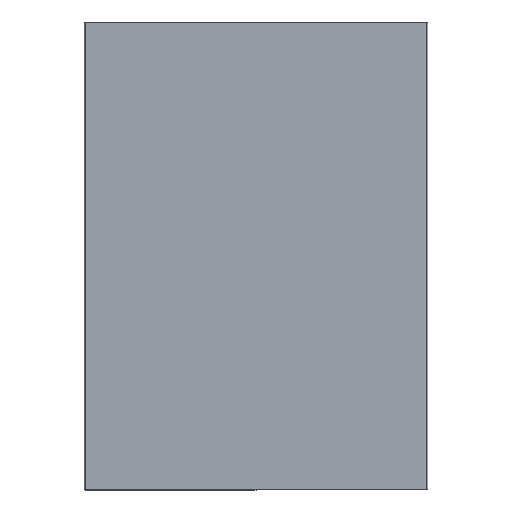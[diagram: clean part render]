
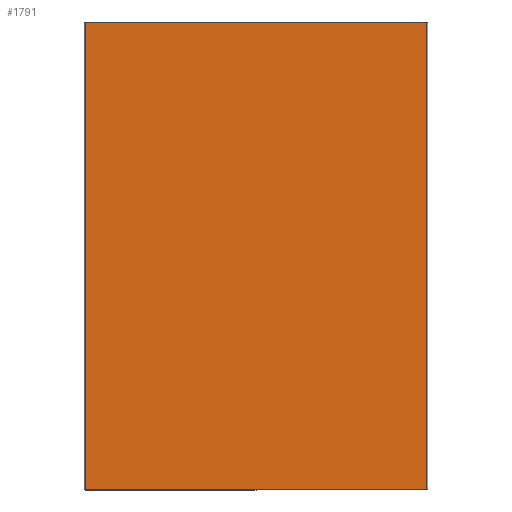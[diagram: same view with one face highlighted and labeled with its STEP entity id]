
A CAD part, top view. The second image highlights one B-rep face of the part: STEP entity #1791.
In plain terms, the highlighted planar face has unit normal (0, 0, 1).
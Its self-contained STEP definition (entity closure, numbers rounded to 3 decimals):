
#1506=CARTESIAN_POINT('',(273.0,-374.,4.0));
#1507=VERTEX_POINT('',#1506);
#1514=CARTESIAN_POINT('',(-273.,-374.0,4.0));
#1515=VERTEX_POINT('',#1514);
#1516=CARTESIAN_POINT('',(273.0,-374.,4.0));
#1517=DIRECTION('',(-1.0,0.0,0.0));
#1518=VECTOR('',#1517,546.);
#1519=LINE('',#1516,#1518);
#1520=EDGE_CURVE('',#1507,#1515,#1519,.T.);
#1547=CARTESIAN_POINT('',(274.0,-373.,4.0));
#1548=VERTEX_POINT('',#1547);
#1555=CARTESIAN_POINT('',(273.0,-373.,4.0));
#1556=DIRECTION('',(0.0,0.0,-1.0));
#1557=DIRECTION('',(0.707,-0.707,0.0));
#1558=AXIS2_PLACEMENT_3D('',#1555,#1556,#1557);
#1559=CIRCLE('',#1558,1.);
#1560=EDGE_CURVE('',#1548,#1507,#1559,.T.);
#1572=CARTESIAN_POINT('',(274.,373.,4.0));
#1573=VERTEX_POINT('',#1572);
#1580=CARTESIAN_POINT('',(274.,373.,4.0));
#1581=DIRECTION('',(0.0,-1.0,0.0));
#1582=VECTOR('',#1581,746.0);
#1583=LINE('',#1580,#1582);
#1584=EDGE_CURVE('',#1573,#1548,#1583,.T.);
#1611=CARTESIAN_POINT('',(273.0,374.,4.0));
#1612=VERTEX_POINT('',#1611);
#1619=CARTESIAN_POINT('',(273.0,373.,4.0));
#1620=DIRECTION('',(0.0,0.0,-1.0));
#1621=DIRECTION('',(0.707,0.707,0.0));
#1622=AXIS2_PLACEMENT_3D('',#1619,#1620,#1621);
#1623=CIRCLE('',#1622,1.);
#1624=EDGE_CURVE('',#1612,#1573,#1623,.T.);
#1634=CARTESIAN_POINT('',(-273.,374.0,4.0));
#1635=VERTEX_POINT('',#1634);
#1642=CARTESIAN_POINT('',(-273.,374.,4.0));
#1643=DIRECTION('',(1.0,0.0,0.0));
#1644=VECTOR('',#1643,546.);
#1645=LINE('',#1642,#1644);
#1646=EDGE_CURVE('',#1635,#1612,#1645,.T.);
#1665=CARTESIAN_POINT('',(-274.,373.0,4.0));
#1666=VERTEX_POINT('',#1665);
#1673=CARTESIAN_POINT('',(-273.,373.0,4.0));
#1674=DIRECTION('',(0.0,0.0,-1.0));
#1675=DIRECTION('',(-0.707,0.707,0.0));
#1676=AXIS2_PLACEMENT_3D('',#1673,#1674,#1675);
#1677=CIRCLE('',#1676,1.);
#1678=EDGE_CURVE('',#1666,#1635,#1677,.T.);
#1688=CARTESIAN_POINT('',(-274.,-373.0,4.0));
#1689=VERTEX_POINT('',#1688);
#1696=CARTESIAN_POINT('',(-274.,-373.0,4.0));
#1697=DIRECTION('',(0.0,1.0,0.0));
#1698=VECTOR('',#1697,746.0);
#1699=LINE('',#1696,#1698);
#1700=EDGE_CURVE('',#1689,#1666,#1699,.T.);
#1715=CARTESIAN_POINT('',(-273.,-373.0,4.0));
#1716=DIRECTION('',(0.0,0.0,-1.0));
#1717=DIRECTION('',(-0.707,-0.707,0.0));
#1718=AXIS2_PLACEMENT_3D('',#1715,#1716,#1717);
#1719=CIRCLE('',#1718,1.);
#1720=EDGE_CURVE('',#1515,#1689,#1719,.T.);
#1776=CARTESIAN_POINT('',(0.0,0.,4.0));
#1777=DIRECTION('',(0.0,0.0,1.0));
#1778=DIRECTION('',(1.0,0.0,0.0));
#1779=AXIS2_PLACEMENT_3D('',#1776,#1777,#1778);
#1780=PLANE('',#1779);
#1781=ORIENTED_EDGE('',*,*,#1520,.F.);
#1782=ORIENTED_EDGE('',*,*,#1560,.F.);
#1783=ORIENTED_EDGE('',*,*,#1584,.F.);
#1784=ORIENTED_EDGE('',*,*,#1624,.F.);
#1785=ORIENTED_EDGE('',*,*,#1646,.F.);
#1786=ORIENTED_EDGE('',*,*,#1678,.F.);
#1787=ORIENTED_EDGE('',*,*,#1700,.F.);
#1788=ORIENTED_EDGE('',*,*,#1720,.F.);
#1789=EDGE_LOOP('',(#1781,#1782,#1783,#1784,#1785,#1786,#1787,#1788));
#1790=FACE_OUTER_BOUND('',#1789,.T.);
#1791=ADVANCED_FACE('',(#1790),#1780,.T.);
